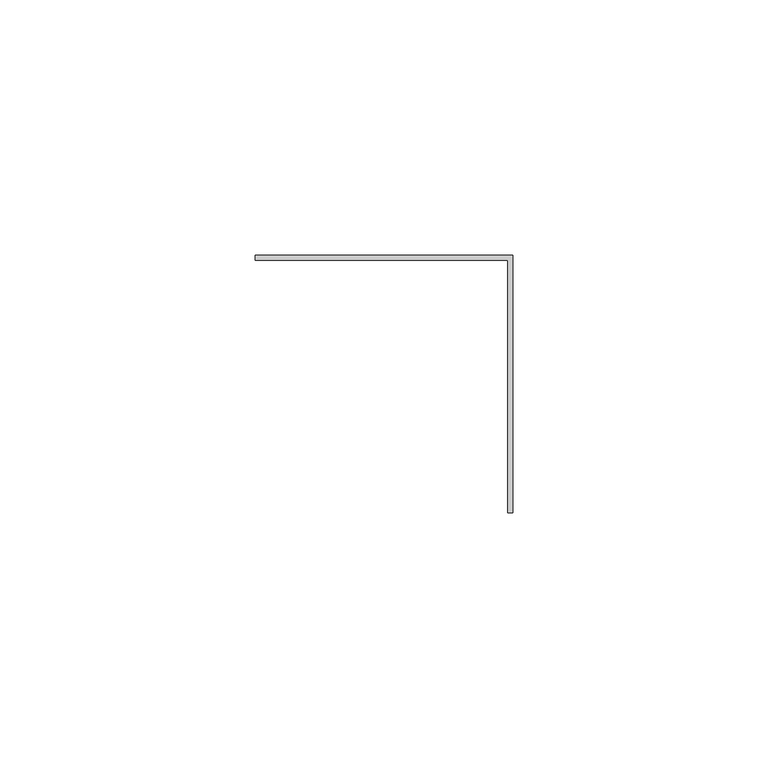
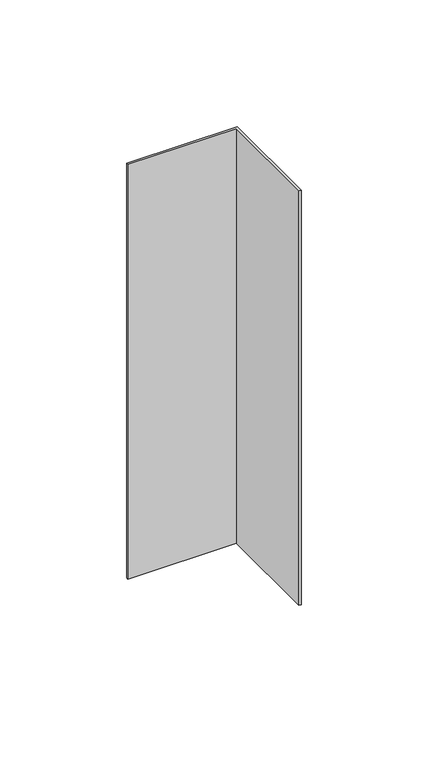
"""IFC4 building model written with IfcOpenShell, lengths in millimetres: member geometry, Meneau d'angle en L : ATELIERS 3S_Angle sortant."""

import ifcopenshell
import ifcopenshell.guid

model = None  # the IFC model being written
_history = None  # IfcOwnerHistory: only IFC2X3 demands one
_inside = {}  # id of a spatial element -> (the spatial element, [elements in it])
_under = {}  # id of a project, library or spatial element -> (it, [spatial elements below it])
_declared = {}  # id of a project -> (the project, [libraries it declares])
_typed = {}  # id of a type object -> (the type object, [elements of that type])
_made_of = {}  # id of a material, layer set ... -> (it, [elements and type objects made of it])


def new_model(schema):
    """Start an empty IFC model of exactly this schema.

    Asked for "IFC4X3", IfcOpenShell would pick the latest addendum, in which some entities
    have other attributes; the version numbers below select the first issue.
    IFC2X3 requires an IfcOwnerHistory on every rooted entity: one is made here for all.
    """
    global model, _history
    if schema == "IFC4X3":
        model = ifcopenshell.file(schema_version=(4, 3, 0, 0))
    else:
        model = ifcopenshell.file(schema=schema)
    _inside.clear()
    _under.clear()
    _declared.clear()
    _typed.clear()
    _made_of.clear()
    _history = None
    if model.schema == "IFC2X3":
        org = make("IfcOrganization", Name="unknown")
        user = make(
            "IfcPersonAndOrganization",
            ThePerson=make("IfcPerson", FamilyName="unknown"),
            TheOrganization=org,
        )
        app = make(
            "IfcApplication",
            ApplicationDeveloper=org,
            Version="unknown",
            ApplicationFullName="unknown",
            ApplicationIdentifier="unknown",
        )
        _history = make(
            "IfcOwnerHistory",
            OwningUser=user,
            OwningApplication=app,
            ChangeAction="ADDED",
            CreationDate=0,
        )
    return model


def make(cls, **values):
    """One entity of the class cls with the attributes given. An attribute that is None is left unset."""
    return model.create_entity(
        cls, **{name: value for name, value in values.items() if value is not None}
    )


def rooted(cls, **values):
    """An entity with a GlobalId (a new one), such as an element, a storey or a relation."""
    return make(cls, GlobalId=ifcopenshell.guid.new(), OwnerHistory=_history, **values)


def si_unit(unit_type, name, prefix=None):
    """IfcSIUnit, for example si_unit("LENGTHUNIT", "METRE", prefix="MILLI")."""
    return make("IfcSIUnit", UnitType=unit_type, Prefix=prefix, Name=name)


def assignment(units):
    """IfcUnitAssignment: the units of a project."""
    return None if units is None else make("IfcUnitAssignment", Units=units)


def point(xyz):
    """IfcCartesianPoint."""
    return None if xyz is None else make("IfcCartesianPoint", Coordinates=xyz)


def direction(xyz):
    """IfcDirection."""
    return None if xyz is None else make("IfcDirection", DirectionRatios=xyz)


def frame(location, z_axis=None, x_axis=None):
    """IfcAxis2Placement3D, a coordinate frame: its origin and axes. An axis left out is left unset."""
    return make(
        "IfcAxis2Placement3D",
        Location=point(location),
        Axis=direction(z_axis),
        RefDirection=direction(x_axis),
    )


def origin():
    """The frame at (0, 0, 0) with its axes left unset."""
    return frame((0.0, 0.0, 0.0))


def place(relative_to, where):
    """IfcLocalPlacement: puts the frame where relative to a parent placement (None: the world)."""
    return make(
        "IfcLocalPlacement", PlacementRelTo=relative_to, RelativePlacement=where
    )


def context(
    kind, dimensions, precision=None, world=None, true_north=None, identifier=None
):
    """IfcGeometricRepresentationContext, for example the 3D "Model" context."""
    return make(
        "IfcGeometricRepresentationContext",
        ContextIdentifier=identifier,
        ContextType=kind,
        CoordinateSpaceDimension=dimensions,
        Precision=precision,
        WorldCoordinateSystem=world,
        TrueNorth=true_north,
    )


def project(units=None, contexts=None):
    """IfcProject with its units and contexts."""
    return rooted(
        "IfcProject",
        Name="project",
        RepresentationContexts=contexts,
        UnitsInContext=assignment(units),
    )


def spatial(cls, under=None, at=None, **own):
    """A site, building, storey or space (cls), placed at a placement, below another one or the project."""
    s = rooted(cls, ObjectPlacement=at, **own)
    if under is not None:
        _under.setdefault(under.id(), (under, []))[1].append(s)
    return s


def polyline(points):
    """IfcPolyline through the points."""
    return make("IfcPolyline", Points=[point(p) for p in points])


def outline(outer, holes=None, kind="AREA"):
    """IfcArbitraryClosedProfileDef: a profile drawn as a closed curve; with holes, ...WithVoids."""
    if holes is None:
        return make("IfcArbitraryClosedProfileDef", ProfileType=kind, OuterCurve=outer)
    return make(
        "IfcArbitraryProfileDefWithVoids",
        ProfileType=kind,
        OuterCurve=outer,
        InnerCurves=holes,
    )


def extrude(swept, where, along, depth):
    """IfcExtrudedAreaSolid: the profile swept, set in the frame where, extruded along a direction by depth."""
    return make(
        "IfcExtrudedAreaSolid",
        SweptArea=swept,
        Position=where,
        ExtrudedDirection=direction(along),
        Depth=depth,
    )


def shape(context_of_items, identifier, shape_type, items):
    """IfcShapeRepresentation: the items that make up one representation, for example the "Body"."""
    return make(
        "IfcShapeRepresentation",
        ContextOfItems=context_of_items,
        RepresentationIdentifier=identifier,
        RepresentationType=shape_type,
        Items=items,
    )


def source(mapping_origin, context_of_items, identifier, shape_type, items):
    """IfcRepresentationMap: a shape defined once, which mapped items show again and again."""
    return make(
        "IfcRepresentationMap",
        MappingOrigin=mapping_origin,
        MappedRepresentation=shape(context_of_items, identifier, shape_type, items),
    )


def transform(
    local_origin,
    x_axis=None,
    y_axis=None,
    z_axis=None,
    scale=None,
    scale2=None,
    scale3=None,
    uniform=True,
):
    """IfcCartesianTransformationOperator3D, or its non-uniform kind. x_axis, y_axis, z_axis: its Axis1, 2, 3."""
    if uniform:
        return make(
            "IfcCartesianTransformationOperator3D",
            Axis1=direction(x_axis),
            Axis2=direction(y_axis),
            LocalOrigin=point(local_origin),
            Scale=scale,
            Axis3=direction(z_axis),
        )
    return make(
        "IfcCartesianTransformationOperator3DnonUniform",
        Axis1=direction(x_axis),
        Axis2=direction(y_axis),
        LocalOrigin=point(local_origin),
        Scale=scale,
        Axis3=direction(z_axis),
        Scale2=scale2,
        Scale3=scale3,
    )


def mapped(mapping_source, mapping_target):
    """IfcMappedItem: shows the shape of a source again, moved by a transform."""
    return make(
        "IfcMappedItem", MappingSource=mapping_source, MappingTarget=mapping_target
    )


def made_of(thing, what):
    """Note that an element or type object is made of a material, layer set ...; save() writes the relation."""
    if what is not None:
        _made_of.setdefault(what.id(), (what, []))[1].append(thing)
    return thing


def element(
    cls,
    number,
    at=None,
    inside=None,
    cuts=None,
    type_object=None,
    material=None,
    context=None,
    identifier="Body",
    shape_type=None,
    held_by="IfcProductDefinitionShape",
    body=None,
    shapes=None,
    **own,
):
    """One element of the class cls, such as IfcWall. Its Tag is "e" and its number.

    at: its placement. inside: the storey or other place that contains it. cuts: it is an
    opening in that element (IfcRelVoidsElement). A single representation is given by context,
    identifier, shape_type and body (its items); several are given by shapes. held_by: the class
    of the entity that holds the representations. save() writes the other relations.
    """
    e = rooted(cls, Tag="e%d" % number, ObjectPlacement=at, **own)
    if body is not None:
        shapes = [shape(context, identifier, shape_type, body)]
    if shapes is not None:
        e.Representation = make(held_by, Representations=shapes)
    if inside is not None:
        _inside.setdefault(inside.id(), (inside, []))[1].append(e)
    if cuts is not None:
        rooted(
            "IfcRelVoidsElement", RelatingBuildingElement=cuts, RelatedOpeningElement=e
        )
    if type_object is not None:
        _typed.setdefault(type_object.id(), (type_object, []))[1].append(e)
    return made_of(e, material)


def aggregate(whole, parts):
    """IfcRelAggregates: a whole, such as a stair, and the parts it consists of."""
    return rooted("IfcRelAggregates", RelatingObject=whole, RelatedObjects=parts)


def save(model, path):
    """Write the relations noted so far, then the file.

    IfcRelAggregates (storeys below a building ...), IfcRelContainedInSpatialStructure (elements
    in a storey), IfcRelDefinesByType, IfcRelAssociatesMaterial and IfcRelDeclares: one each for
    every whole, place, type object, material and project.
    """
    for whole, parts in _under.values():
        aggregate(whole, parts)
    for where, things in _inside.values():
        rooted(
            "IfcRelContainedInSpatialStructure",
            RelatedElements=things,
            RelatingStructure=where,
        )
    for kind, things in _typed.values():
        rooted("IfcRelDefinesByType", RelatedObjects=things, RelatingType=kind)
    for what, things in _made_of.values():
        rooted("IfcRelAssociatesMaterial", RelatedObjects=things, RelatingMaterial=what)
    for by, libraries in _declared.values():
        rooted("IfcRelDeclares", RelatingContext=by, RelatedDefinitions=libraries)
    model.write(path)


def member_9001d6f0(model_context):
    return source(origin(), model_context, "Body", "SweptSolid", [
        extrude(outline(polyline([(37.5, -12.0), (37.5, 37.5), (-12.0, 37.5), (-12.0, 38.5), (38.5, 38.5), (38.5, -12.0), (37.5, -12.0)])), frame((0.0, 0.0, -200.0), z_axis=(0.0, 0.0, 1.0), x_axis=(1.0, 0.0, 0.0)), (0.0, 0.0, 1.0), 200.0),
    ])


if __name__ == "__main__":
    model = new_model("IFC4")
    model_context = context("Model", 3, world=origin())
    ifc_project = project(units=[si_unit("LENGTHUNIT", "METRE", prefix="MILLI")], contexts=[model_context])
    site = spatial("IfcSite", under=ifc_project)
    building = spatial("IfcBuilding", under=site)
    placement = place(None, origin())
    member_shape = member_9001d6f0(model_context)
    element("IfcMember", 1, ObjectType="Meneau d'angle en L : ATELIERS 3S_Angle sortant", at=placement, inside=building, context=model_context, shape_type="MappedRepresentation", body=[
        mapped(member_shape, transform((0.0, 0.0, 0.0), x_axis=(1.0, 0.0, 0.0), y_axis=(0.0, 1.0, 0.0), z_axis=(0.0, 0.0, 1.0))),
    ])
    save(model, "model.ifc")
